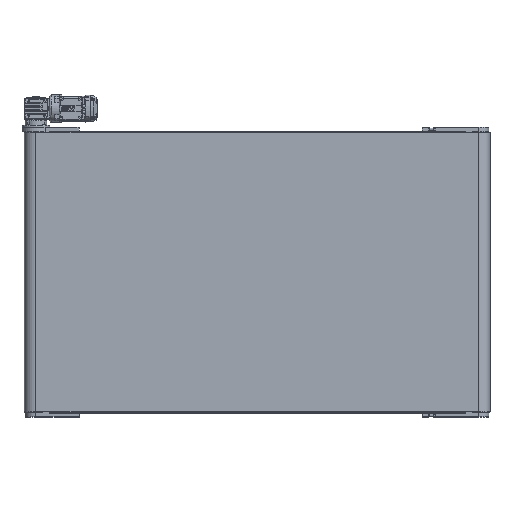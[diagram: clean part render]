
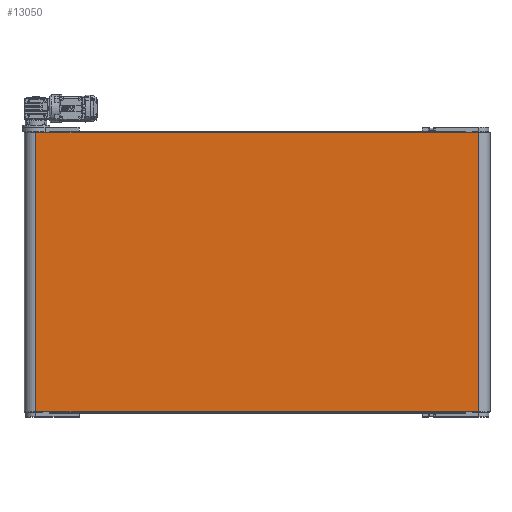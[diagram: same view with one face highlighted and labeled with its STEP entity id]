
A CAD part, top view. The second image highlights one B-rep face of the part: STEP entity #13050.
In plain terms, the highlighted planar face has unit normal (0, 0, 1).
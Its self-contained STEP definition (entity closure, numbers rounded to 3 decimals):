
#1395 = PLANE ( 'NONE',  #16358 ) ;
#3417 = EDGE_CURVE ( 'NONE', #32127, #26224, #8230, .T. ) ;
#4525 = FACE_OUTER_BOUND ( 'NONE', #13911, .T. ) ;
#4788 = EDGE_CURVE ( 'NONE', #44556, #26224, #9304, .T. ) ;
#8230 = LINE ( 'NONE', #11765, #15955 ) ;
#9304 = LINE ( 'NONE', #51477, #23144 ) ;
#9737 = DIRECTION ( 'NONE',  ( 0., -1., 0. ) ) ;
#11505 = ORIENTED_EDGE ( 'NONE', *, *, #60723, .F. ) ;
#11765 = CARTESIAN_POINT ( 'NONE',  ( 50., 0., 50. ) ) ;
#13050 = ADVANCED_FACE ( 'NONE', ( #4525 ), #1395, .F. ) ;
#13911 = EDGE_LOOP ( 'NONE', ( #31086, #39962, #11505, #17986 ) ) ;
#15955 = VECTOR ( 'NONE', #17668, 1000. ) ;
#16358 = AXIS2_PLACEMENT_3D ( 'NONE', #19268, #57974, #28687 ) ;
#17176 = CARTESIAN_POINT ( 'NONE',  ( 50., 1200., 50. ) ) ;
#17668 = DIRECTION ( 'NONE',  ( 1., 0., 0. ) ) ;
#17986 = ORIENTED_EDGE ( 'NONE', *, *, #40480, .T. ) ;
#19268 = CARTESIAN_POINT ( 'NONE',  ( 50., 1200., 50. ) ) ;
#21596 = VERTEX_POINT ( 'NONE', #17176 ) ;
#22076 = CARTESIAN_POINT ( 'NONE',  ( 50., 1200., 50. ) ) ;
#23144 = VECTOR ( 'NONE', #47985, 1000. ) ;
#26224 = VERTEX_POINT ( 'NONE', #37947 ) ;
#28687 = DIRECTION ( 'NONE',  ( -1., 0., 0. ) ) ;
#30715 = CARTESIAN_POINT ( 'NONE',  ( 1950., 1200., 50. ) ) ;
#31086 = ORIENTED_EDGE ( 'NONE', *, *, #3417, .T. ) ;
#32127 = VERTEX_POINT ( 'NONE', #60599 ) ;
#37703 = VECTOR ( 'NONE', #9737, 1000. ) ;
#37778 = LINE ( 'NONE', #47812, #37703 ) ;
#37947 = CARTESIAN_POINT ( 'NONE',  ( 1950., 0., 50. ) ) ;
#39962 = ORIENTED_EDGE ( 'NONE', *, *, #4788, .F. ) ;
#40480 = EDGE_CURVE ( 'NONE', #21596, #32127, #37778, .T. ) ;
#41027 = DIRECTION ( 'NONE',  ( 1., 0., 0. ) ) ;
#44556 = VERTEX_POINT ( 'NONE', #30715 ) ;
#46017 = LINE ( 'NONE', #22076, #59852 ) ;
#47812 = CARTESIAN_POINT ( 'NONE',  ( 50., 1200., 50. ) ) ;
#47985 = DIRECTION ( 'NONE',  ( 0., -1., 0. ) ) ;
#51477 = CARTESIAN_POINT ( 'NONE',  ( 1950., 1200., 50. ) ) ;
#57974 = DIRECTION ( 'NONE',  ( 0., 0., -1. ) ) ;
#59852 = VECTOR ( 'NONE', #41027, 1000. ) ;
#60599 = CARTESIAN_POINT ( 'NONE',  ( 50., 0., 50. ) ) ;
#60723 = EDGE_CURVE ( 'NONE', #21596, #44556, #46017, .T. ) ;
